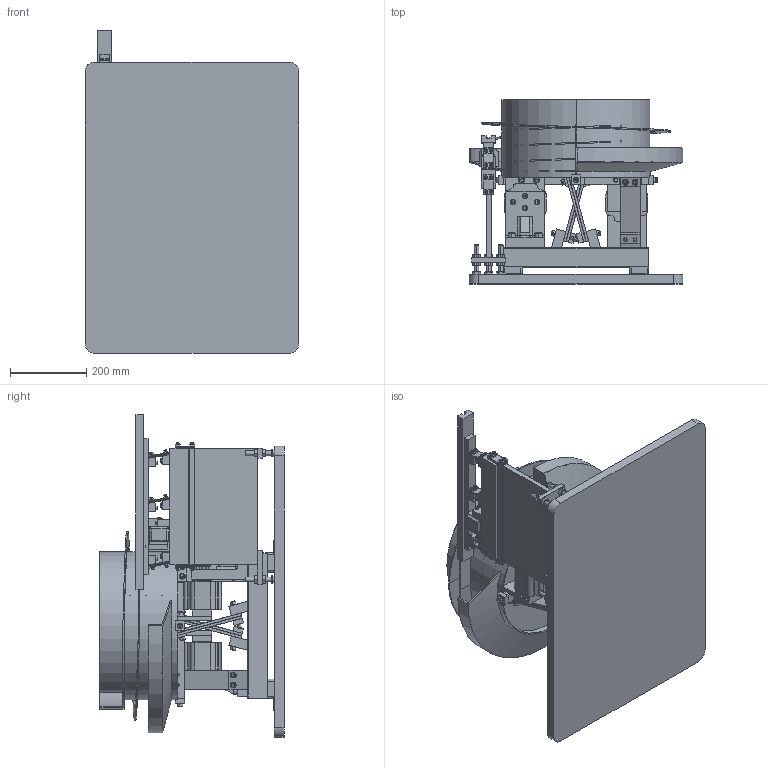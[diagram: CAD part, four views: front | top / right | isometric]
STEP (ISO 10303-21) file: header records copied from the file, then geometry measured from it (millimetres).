
FILE_DESCRIPTION (( 'STEP AP203' ), '1' );
FILE_NAME ('CCW15B-18T-P.STEP', '2014-01-10T13:06:36', ( '' ), ( '' ), 'SwSTEP 2.0', 'SolidWorks 2013', '' );
FILE_SCHEMA (( 'CONFIG_CONTROL_DESIGN' ));
Length unit declared in the file: inch
Products named in the file (27): MFS PLATE_15"; S-II-THICK-SPRING; MFS-S-II-14 INLINE_6.5; S-II-I-LAMINATION; S-II-REAR-FOOT; hex washer screw_ai_IN-HWMS 0.25-20x1.25x1-N; S-II-COIL; S-II-14-DRIVE BAR; CCW BOWL_15"; S-II-14-MASS BAR; socket head cap screw_ai_HX-SHCS 0.19-24x1.125x1.125-N; S-II-ADJUSTING-LEVELER; S-II-FRONT-FOOT; 15-CCW-BASE-DRIVE; S-II-SPRING-SPACER; socket head cap screw_ai_HX-SHCS 0.19-24x0.625x0.625-N; S-II-COIL-BLOCK; S-II-14-SUB-BASE; CCW15B-18T-P; S-II-SPRING-CLAMP; MFS TRACK_18"; socket head cap screw_ai_HX-SHCS 0.19-24x1.625x1.25-N; S-II-I-LAM-MTG-BLOCK; socket head cap screw_ai_HX-SHCS 0.19-24x0.75x0.75-N; S-II-RISER GUSSET_6.5"; hex jam nut_ai_HJNUT 0.5000-13-D-N; S-II-SPRING-BLOCK
Assembly tree (96 placements, depth 3):
  CCW15B-18T-P
    CCW BOWL_15"
    MFS PLATE_15"
    MFS TRACK_18"
    MFS-S-II-14 INLINE_6.5
      S-II-14-SUB-BASE
      S-II-14-MASS BAR
      S-II-14-DRIVE BAR
      S-II-SPRING-SPACER  x14
      S-II-THICK-SPRING  x10
      S-II-SPRING-BLOCK  x6
      S-II-SPRING-CLAMP  x10
      S-II-RISER GUSSET_6.5"
      S-II-COIL
      S-II-COIL-BLOCK
      S-II-I-LAMINATION
      S-II-I-LAM-MTG-BLOCK
      S-II-FRONT-FOOT
      S-II-REAR-FOOT
      S-II-ADJUSTING-LEVELER  x3
      hex jam nut_ai_HJNUT 0.5000-13-D-N  x6
      hex washer screw_ai_IN-HWMS 0.25-20x1.25x1-N  x6
      socket head cap screw_ai_HX-SHCS 0.19-24x0.75x0.75-N  x20
      socket head cap screw_ai_HX-SHCS 0.19-24x1.125x1.125-N  x2
      socket head cap screw_ai_HX-SHCS 0.19-24x1.625x1.25-N  x2
      socket head cap screw_ai_HX-SHCS 0.19-24x0.625x0.625-N  x2
    15-CCW-BASE-DRIVE
Bounding box: 558.8 x 481.91 x 844.55 mm (x, y, z)
Volume: 15043617.6 mm3; surface area: 3768538.9 mm2
Topology: 94 solids, 208 shells, 2681 faces, 6849 edges, 4360 vertices
Faces by surface type: plane 1413, cylinder 692, cone 509, torus 52, sphere 8, bspline 7
Entity records: 51318 total; most frequent: CARTESIAN_POINT 10599, DIRECTION 7869, ORIENTED_EDGE 6504, EDGE_CURVE 3781, AXIS2_PLACEMENT_3D 2727, VERTEX_POINT 2562, VECTOR 2415, LINE 2415
